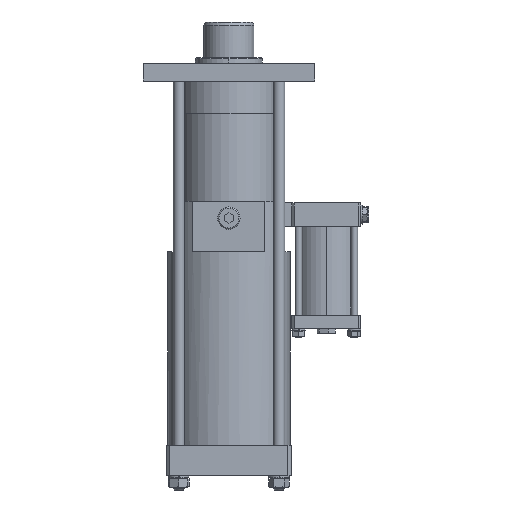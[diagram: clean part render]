
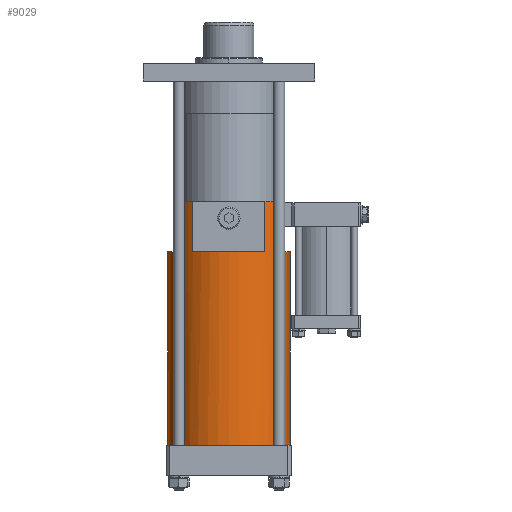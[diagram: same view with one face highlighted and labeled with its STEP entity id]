
A CAD part, front view. The second image highlights one B-rep face of the part: STEP entity #9029.
In plain terms, the highlighted cylindrical face has radius 55 mm (diameter 110 mm), a partial arc.
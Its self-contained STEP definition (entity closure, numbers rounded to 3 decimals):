
#10 = CARTESIAN_POINT ( 'NONE',  ( 32.323, -44.5, -238.5 ) ) ;
#196 = EDGE_CURVE ( 'NONE', #2375, #4815, #5401, .T. ) ;
#307 = VECTOR ( 'NONE', #1216, 1000. ) ;
#609 = ORIENTED_EDGE ( 'NONE', *, *, #4884, .F. ) ;
#628 = DIRECTION ( 'NONE',  ( -1., 0., 0. ) ) ;
#686 = EDGE_CURVE ( 'NONE', #10904, #9664, #9963, .T. ) ;
#883 = CARTESIAN_POINT ( 'NONE',  ( 0., 0., -129. ) ) ;
#889 = DIRECTION ( 'NONE',  ( 0., 0., -1. ) ) ;
#899 = DIRECTION ( 'NONE',  ( -1., 0., 0. ) ) ;
#1045 = ORIENTED_EDGE ( 'NONE', *, *, #7771, .T. ) ;
#1093 = CIRCLE ( 'NONE', #7450, 55. ) ;
#1131 = CARTESIAN_POINT ( 'NONE',  ( -55., 0., -348. ) ) ;
#1162 = EDGE_LOOP ( 'NONE', ( #2362, #4898, #7299, #1045, #1640, #9008, #4101, #1742, #11019, #5041, #2870, #609 ) ) ;
#1216 = DIRECTION ( 'NONE',  ( 0., 0., 1. ) ) ;
#1480 = CARTESIAN_POINT ( 'NONE',  ( 0., 0., -174. ) ) ;
#1640 = ORIENTED_EDGE ( 'NONE', *, *, #6364, .F. ) ;
#1742 = ORIENTED_EDGE ( 'NONE', *, *, #10769, .T. ) ;
#1770 = CARTESIAN_POINT ( 'NONE',  ( 32.323, -44.5, -174. ) ) ;
#1895 = CARTESIAN_POINT ( 'NONE',  ( -44.5, -32.323, -151.5 ) ) ;
#2074 = DIRECTION ( 'NONE',  ( -1., 0., 0. ) ) ;
#2085 = CARTESIAN_POINT ( 'NONE',  ( 0., 0., -129. ) ) ;
#2306 = DIRECTION ( 'NONE',  ( 0., 0., -1. ) ) ;
#2362 = ORIENTED_EDGE ( 'NONE', *, *, #6936, .F. ) ;
#2375 = VERTEX_POINT ( 'NONE', #4015 ) ;
#2418 = CARTESIAN_POINT ( 'NONE',  ( 0., 0., -174. ) ) ;
#2432 = DIRECTION ( 'NONE',  ( -1., 0., 0. ) ) ;
#2451 = LINE ( 'NONE', #1895, #6720 ) ;
#2586 = AXIS2_PLACEMENT_3D ( 'NONE', #2085, #2306, #899 ) ;
#2742 = VERTEX_POINT ( 'NONE', #9479 ) ;
#2870 = ORIENTED_EDGE ( 'NONE', *, *, #10666, .T. ) ;
#3064 = CIRCLE ( 'NONE', #5556, 55. ) ;
#3178 = CARTESIAN_POINT ( 'NONE',  ( 44.5, -32.323, -129. ) ) ;
#3369 = VECTOR ( 'NONE', #7431, 1000. ) ;
#3398 = VECTOR ( 'NONE', #8539, 1000. ) ;
#3399 = CARTESIAN_POINT ( 'NONE',  ( -32.323, -44.5, -129. ) ) ;
#3635 = CARTESIAN_POINT ( 'NONE',  ( -55., 0., -129. ) ) ;
#3772 = CARTESIAN_POINT ( 'NONE',  ( 44.5, -32.323, -238.5 ) ) ;
#3959 = DIRECTION ( 'NONE',  ( 0., 0., 1. ) ) ;
#4015 = CARTESIAN_POINT ( 'NONE',  ( -55., 0., -174. ) ) ;
#4101 = ORIENTED_EDGE ( 'NONE', *, *, #686, .F. ) ;
#4309 = VECTOR ( 'NONE', #10158, 1000. ) ;
#4568 = LINE ( 'NONE', #7942, #6545 ) ;
#4587 = CIRCLE ( 'NONE', #5880, 55. ) ;
#4640 = VERTEX_POINT ( 'NONE', #8883 ) ;
#4648 = VERTEX_POINT ( 'NONE', #9005 ) ;
#4711 = CARTESIAN_POINT ( 'NONE',  ( 0., 0., -129. ) ) ;
#4815 = VERTEX_POINT ( 'NONE', #9868 ) ;
#4884 = EDGE_CURVE ( 'NONE', #4640, #10474, #1093, .T. ) ;
#4898 = ORIENTED_EDGE ( 'NONE', *, *, #7451, .F. ) ;
#5035 = VERTEX_POINT ( 'NONE', #3178 ) ;
#5041 = ORIENTED_EDGE ( 'NONE', *, *, #196, .F. ) ;
#5401 = CIRCLE ( 'NONE', #10204, 55. ) ;
#5556 = AXIS2_PLACEMENT_3D ( 'NONE', #4711, #10566, #10828 ) ;
#5795 = CARTESIAN_POINT ( 'NONE',  ( -32.323, -44.5, -174. ) ) ;
#5880 = AXIS2_PLACEMENT_3D ( 'NONE', #883, #7313, #8613 ) ;
#5896 = DIRECTION ( 'NONE',  ( 0., 0., 1. ) ) ;
#6022 = CARTESIAN_POINT ( 'NONE',  ( 0., 0., -174. ) ) ;
#6102 = CYLINDRICAL_SURFACE ( 'NONE', #2586, 55. ) ;
#6364 = EDGE_CURVE ( 'NONE', #8793, #2742, #6838, .T. ) ;
#6377 = FACE_OUTER_BOUND ( 'NONE', #1162, .T. ) ;
#6545 = VECTOR ( 'NONE', #889, 1000. ) ;
#6573 = LINE ( 'NONE', #3772, #4309 ) ;
#6720 = VECTOR ( 'NONE', #7904, 1000. ) ;
#6838 = LINE ( 'NONE', #10, #307 ) ;
#6936 = EDGE_CURVE ( 'NONE', #10065, #4640, #4568, .T. ) ;
#7299 = ORIENTED_EDGE ( 'NONE', *, *, #10342, .F. ) ;
#7313 = DIRECTION ( 'NONE',  ( 0., 0., -1. ) ) ;
#7431 = DIRECTION ( 'NONE',  ( 0., 0., -1. ) ) ;
#7450 = AXIS2_PLACEMENT_3D ( 'NONE', #10363, #10366, #10374 ) ;
#7451 = EDGE_CURVE ( 'NONE', #7990, #10065, #10565, .T. ) ;
#7644 = LINE ( 'NONE', #3635, #3369 ) ;
#7677 = DIRECTION ( 'NONE',  ( 0., 0., 1. ) ) ;
#7771 = EDGE_CURVE ( 'NONE', #5035, #2742, #3064, .T. ) ;
#7904 = DIRECTION ( 'NONE',  ( 0., 0., -1. ) ) ;
#7942 = CARTESIAN_POINT ( 'NONE',  ( 55., 0., -129. ) ) ;
#7990 = VERTEX_POINT ( 'NONE', #9489 ) ;
#8288 = EDGE_CURVE ( 'NONE', #9664, #8793, #9107, .T. ) ;
#8539 = DIRECTION ( 'NONE',  ( 0., 0., -1. ) ) ;
#8613 = DIRECTION ( 'NONE',  ( -1., 0., 0. ) ) ;
#8761 = CARTESIAN_POINT ( 'NONE',  ( 55., 0., -174. ) ) ;
#8793 = VERTEX_POINT ( 'NONE', #1770 ) ;
#8883 = CARTESIAN_POINT ( 'NONE',  ( 55., 0., -348. ) ) ;
#8897 = AXIS2_PLACEMENT_3D ( 'NONE', #6022, #7677, #2074 ) ;
#9005 = CARTESIAN_POINT ( 'NONE',  ( -44.5, -32.323, -129. ) ) ;
#9008 = ORIENTED_EDGE ( 'NONE', *, *, #8288, .F. ) ;
#9029 = ADVANCED_FACE ( 'NONE', ( #6377 ), #6102, .T. ) ;
#9107 = CIRCLE ( 'NONE', #10859, 55. ) ;
#9429 = CARTESIAN_POINT ( 'NONE',  ( -32.323, -44.5, -238.5 ) ) ;
#9479 = CARTESIAN_POINT ( 'NONE',  ( 32.323, -44.5, -129. ) ) ;
#9489 = CARTESIAN_POINT ( 'NONE',  ( 44.5, -32.323, -174. ) ) ;
#9664 = VERTEX_POINT ( 'NONE', #5795 ) ;
#9868 = CARTESIAN_POINT ( 'NONE',  ( -44.5, -32.323, -174. ) ) ;
#9963 = LINE ( 'NONE', #9429, #3398 ) ;
#10065 = VERTEX_POINT ( 'NONE', #8761 ) ;
#10102 = EDGE_CURVE ( 'NONE', #4648, #4815, #2451, .T. ) ;
#10158 = DIRECTION ( 'NONE',  ( 0., 0., -1. ) ) ;
#10204 = AXIS2_PLACEMENT_3D ( 'NONE', #1480, #5896, #628 ) ;
#10342 = EDGE_CURVE ( 'NONE', #5035, #7990, #6573, .T. ) ;
#10363 = CARTESIAN_POINT ( 'NONE',  ( 0., 0., -348. ) ) ;
#10366 = DIRECTION ( 'NONE',  ( 0., 0., -1. ) ) ;
#10374 = DIRECTION ( 'NONE',  ( -1., 0., 0. ) ) ;
#10474 = VERTEX_POINT ( 'NONE', #1131 ) ;
#10565 = CIRCLE ( 'NONE', #8897, 55. ) ;
#10566 = DIRECTION ( 'NONE',  ( 0., 0., -1. ) ) ;
#10666 = EDGE_CURVE ( 'NONE', #2375, #10474, #7644, .T. ) ;
#10769 = EDGE_CURVE ( 'NONE', #10904, #4648, #4587, .T. ) ;
#10828 = DIRECTION ( 'NONE',  ( -1., 0., 0. ) ) ;
#10859 = AXIS2_PLACEMENT_3D ( 'NONE', #2418, #3959, #2432 ) ;
#10904 = VERTEX_POINT ( 'NONE', #3399 ) ;
#11019 = ORIENTED_EDGE ( 'NONE', *, *, #10102, .T. ) ;
